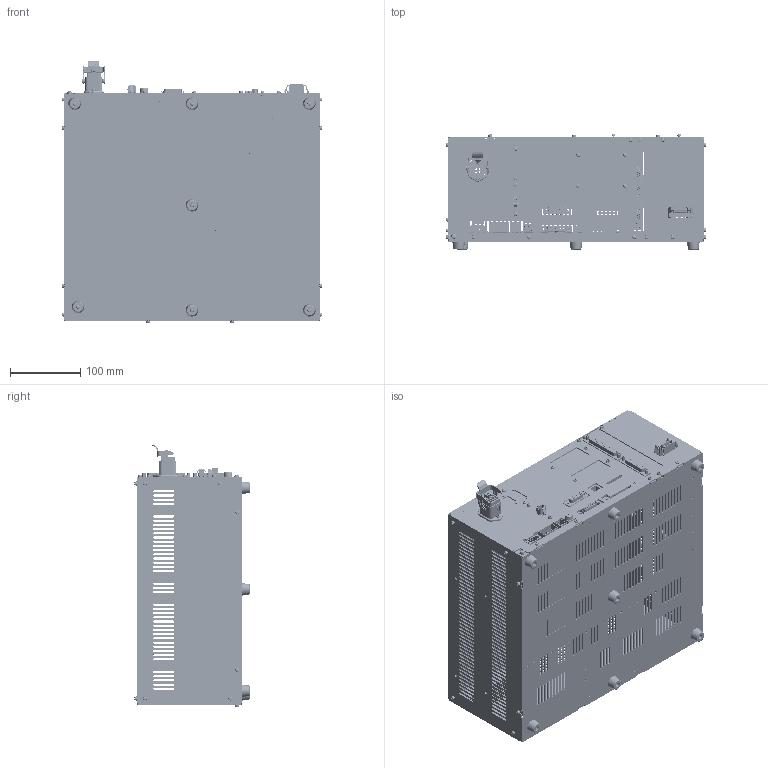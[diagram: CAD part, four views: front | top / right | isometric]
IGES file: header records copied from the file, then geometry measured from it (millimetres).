
Start section: ------------------------------------------------------------------------
Global section: file name: C:\Users\14979\Desktop\TS5000-SS.igs; native system: spGate; preprocessor: ver18.9.1 (****-****-****-****); author: Unknown; organization: Unknown; date: 230203.081036; units: millimetre
Bounding box: 371.36 x 164.58 x 374.4 mm (x, y, z)
Surface area: 966847.6 mm2 (no closed solid volume)
Topology: 0 solids, 0 shells, 13435 faces, 74537 edges, 74508 vertices
Faces by surface type: bspline 13435
